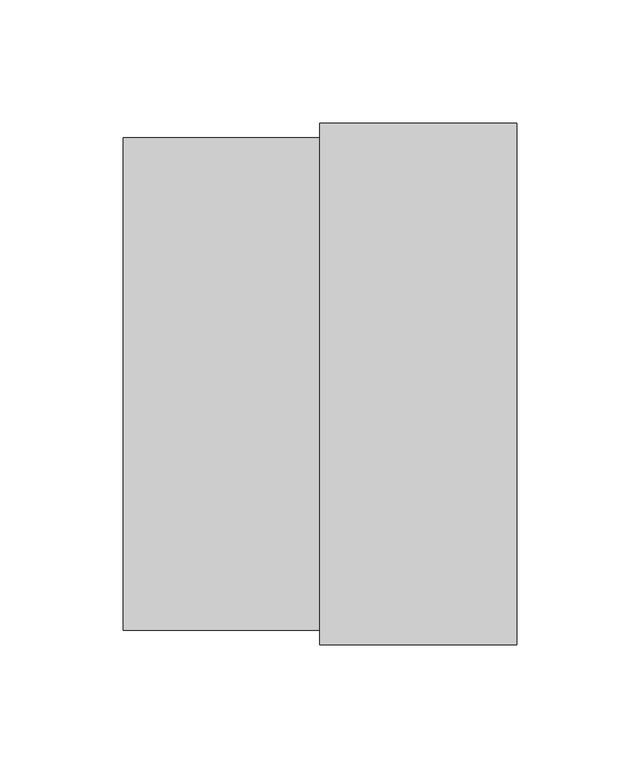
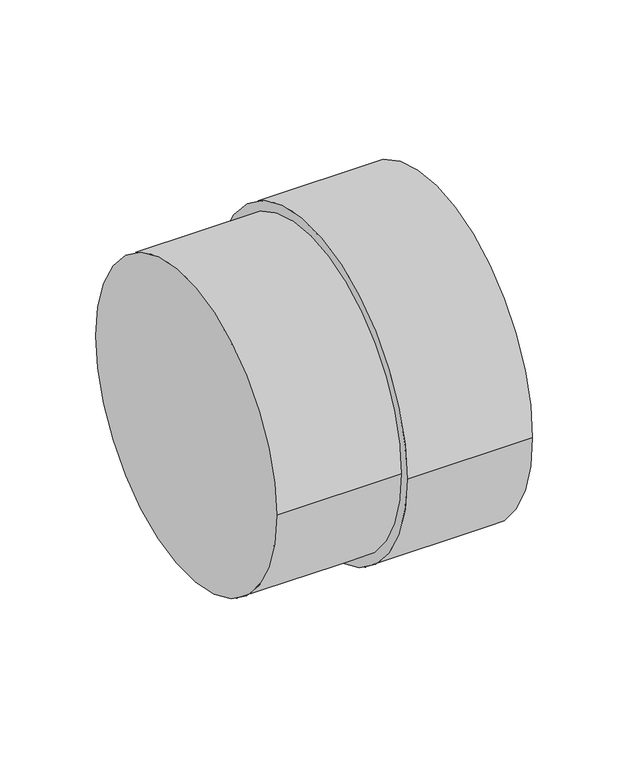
"""IFC4 building model written with IfcOpenShell, lengths in millimetres: pipe fitting geometry, NLRS_52_PIF_UN_PE overgang op gietijzer_geb : DN200-300-326 / ø200-315-326."""

from ifc_helpers import new_model, si_unit, point, frame, origin, origin_2d, place, context, project, spatial, circle_curve, trimmed, segment, composite_curve, outline, extrude, source, transform, mapped, element, save


def pipe_fitting_837e9a98(model_context):
    return source(origin(), model_context, "Body", "SweptSolid", [
        extrude(outline(composite_curve([segment(trimmed(circle_curve(origin_2d(), 106.0), [point((-106.0, 0.0))], [point((106.0, 0.0))], False, "CARTESIAN"), True, "CONTINUOUS"), segment(trimmed(circle_curve(origin_2d(), 106.0), [point((106.0, 0.0))], [point((-106.0, 0.0))], False, "CARTESIAN"), True, "CONTINUOUS")], self_intersect=False)), frame((0.0, 0.0, 0.0), z_axis=(1.0, 0.0, 0.0), x_axis=(0.0, 1.0, 0.0)), (0.0, 0.0, 1.0), 80.0),
        extrude(outline(composite_curve([segment(trimmed(circle_curve(origin_2d(), 100.0), [point((-100.0, 0.0))], [point((100.0, 0.0))], False, "CARTESIAN"), True, "CONTINUOUS"), segment(trimmed(circle_curve(origin_2d(), 100.0), [point((100.0, 0.0))], [point((-100.0, 0.0))], False, "CARTESIAN"), True, "CONTINUOUS")], self_intersect=False)), frame((-80.0, 0.0, 0.0), z_axis=(1.0, 0.0, 0.0), x_axis=(0.0, 1.0, 0.0)), (0.0, 0.0, 1.0), 80.0),
    ])


if __name__ == "__main__":
    model = new_model("IFC4")
    model_context = context("Model", 3, world=origin())
    ifc_project = project(units=[si_unit("LENGTHUNIT", "METRE", prefix="MILLI")], contexts=[model_context])
    site = spatial("IfcSite", under=ifc_project)
    building = spatial("IfcBuilding", under=site)
    placement = place(None, origin())
    pipe_fitting_shape = pipe_fitting_837e9a98(model_context)
    element("IfcPipeFitting", 1, ObjectType="NLRS_52_PIF_UN_PE overgang op gietijzer_geb : DN200-300-326 / ø200-315-326", at=placement, inside=building, context=model_context, shape_type="MappedRepresentation", body=[
        mapped(pipe_fitting_shape, transform((0.0, 0.0, 0.0), x_axis=(1.0, 0.0, 0.0), y_axis=(0.0, 1.0, 0.0), z_axis=(0.0, 0.0, 1.0))),
    ])
    save(model, "model.ifc")
